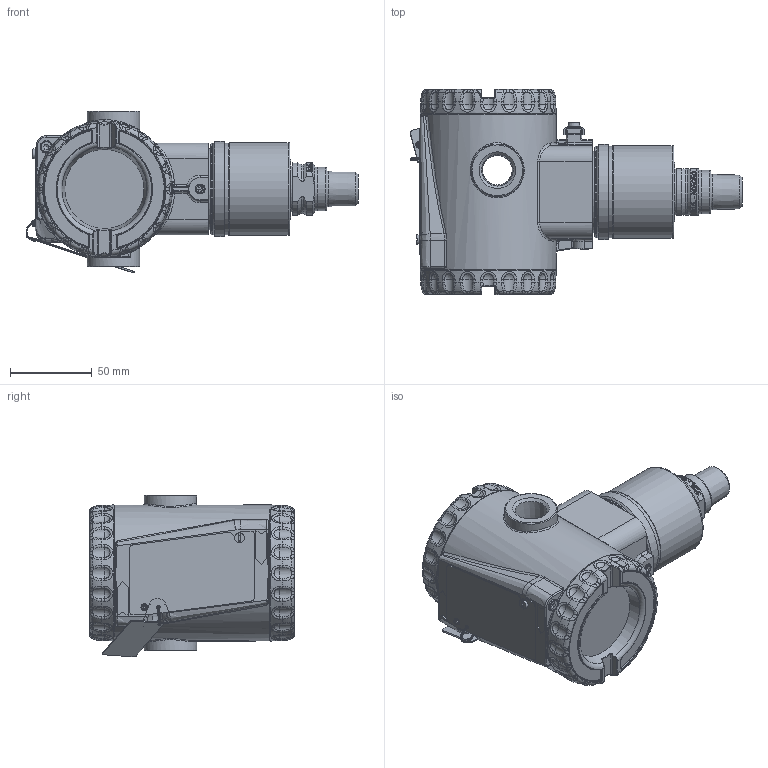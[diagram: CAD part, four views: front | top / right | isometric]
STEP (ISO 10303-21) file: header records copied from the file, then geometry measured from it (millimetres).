
FILE_DESCRIPTION(/* description */ (''),/* implementation_level */ '2;1');
FILE_NAME(/* name */ 'F:\Area\Desenvolvimento_2\Projects\Sensor\projetos\LD400-3d\dimensionais 3D clientes\LD400G\LD400G2-3 1-2 NPT macho.stp',/* time_stamp */ '2023-02-02T16:39:34-03:00',/* author */ ('inventor02'),/* organization */ (''),/* preprocessor_version */ 'ST-DEVELOPER v17',/* originating_system */ 'Autodesk Inventor 2019',/* authorisation */ '');
FILE_SCHEMA (('CONFIG_CONTROL_DESIGN'));
Products named in the file (27): LD400G2-3 1-2 NPT macho; SENSOR 29X FX2-3 1-2NPT macho; 101-B-5895-01 capa fx2-3; 101-C-3677-06 conexao ao processo 1-2NPT; 101-D-1309-04 pescoço LD29x usinado; 101-B-1611-06 conexão 1-2NPT macho; Carcaça 400 com tampas e plaqueta sem letras; 101-D-0845-05 carcaça LD400 sem letras; 101-B-3614-03-tampa 400 sem letras; Tampa visor 400 montada sem letras; 101-B-3612-05 tampa visor 400 sem letras; 101-A-6107; oring 2034; 00034775-0; WHW_250; DIN 915 - M6 x 10; Chapa aterramento externo; 201-A-1771-02 inserto terra recartilhado; AS 1969 - ST4,2; ISO 1207 - M4 x 8; ANSI B18.3.1M - M4x0,7 x 8; Subconjunto plaqueta 400; plaqueta 400 em branco; Parafuso da Plaqueta; Rebite da Plaqueta; 096-A-0169-03; 101-A-0502-01
Assembly tree (27 placements, depth 4):
  LD400G2-3 1-2 NPT macho
    SENSOR 29X FX2-3 1-2NPT macho
      101-B-5895-01 capa fx2-3
      101-C-3677-06 conexao ao processo 1-2NPT
      101-D-1309-04 pescoço LD29x usinado
      101-B-1611-06 conexão 1-2NPT macho
    Carcaça 400 com tampas e plaqueta sem letras
      101-D-0845-05 carcaça LD400 sem letras
      101-B-3614-03-tampa 400 sem letras
      Tampa visor 400 montada sem letras
        101-B-3612-05 tampa visor 400 sem letras
        101-A-6107
        oring 2034
        00034775-0
        WHW_250
      DIN 915 - M6 x 10
      Chapa aterramento externo
      201-A-1771-02 inserto terra recartilhado
      AS 1969 - ST4,2
      ISO 1207 - M4 x 8
      ANSI B18.3.1M - M4x0,7 x 8  x2
      Subconjunto plaqueta 400
        plaqueta 400 em branco
        Parafuso da Plaqueta
        Rebite da Plaqueta
        096-A-0169-03
        101-A-0502-01
Bounding box: 202.55 x 125 x 98.64 mm (x, y, z)
Volume: 446950.3 mm3; surface area: 186947.1 mm2
Topology: 23 solids, 23 shells, 1956 faces, 4843 edges, 2953 vertices
Faces by surface type: plane 548, bspline 513, cylinder 436, torus 270, cone 134, sphere 55
Full cylindrical faces by diameter (mm): 2 x2, 2.1 x1, 2.2 x1, 2.459 x3, 2.7 x1, 3 x1, 3.242 x3, 3.5 x4, 3.571 x1, 4 x4, 4.3 x2, 4.4 x1, 4.917 x1, 6 x2, 6.1 x2, 6.2 x1, 7 x2, 7.6 x2, 8 x1, 17.5 x1, 18 x1, 18.3 x2, 21.6 x1, 26.5 x2, 28.399 x1, 32 x2, 32.2 x1, 34.15 x1, 35.15 x1, 35.2 x1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
Entity records: 75684 total; most frequent: CARTESIAN_POINT 30546, ORIENTED_EDGE 9518, DIRECTION 8830, EDGE_CURVE 4759, AXIS2_PLACEMENT_3D 3656, VERTEX_POINT 2924, CIRCLE 2086, EDGE_LOOP 2043
